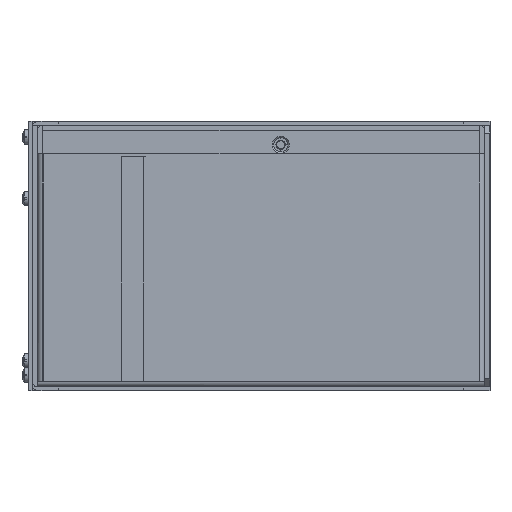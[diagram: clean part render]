
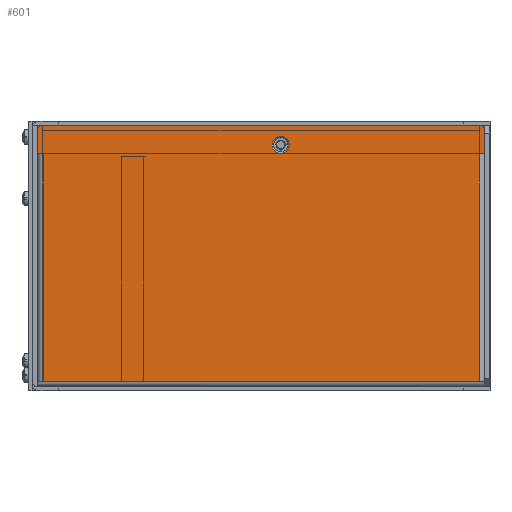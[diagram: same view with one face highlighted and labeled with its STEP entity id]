
A CAD part, left-side view. The second image highlights one B-rep face of the part: STEP entity #601.
In plain terms, the highlighted planar face has unit normal (-1, 0, 0).
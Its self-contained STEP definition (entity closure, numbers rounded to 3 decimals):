
#601=ADVANCED_FACE('',(#2149,#2150),#2151,.F.);
#2149=FACE_OUTER_BOUND('',#5106,.T.);
#2150=FACE_BOUND('',#5107,.T.);
#2151=PLANE('',#5108);
#5106=EDGE_LOOP('',(#8964,#8965,#8966,#8967,#8968,#8969,#8970,#8971,#8972,#8973,#8974,#8975));
#5107=EDGE_LOOP('',(#8976,#8977));
#5108=AXIS2_PLACEMENT_3D('',#8978,#8979,#8980);
#8964=ORIENTED_EDGE('',*,*,#19130,.T.);
#8965=ORIENTED_EDGE('',*,*,#19131,.F.);
#8966=ORIENTED_EDGE('',*,*,#19132,.F.);
#8967=ORIENTED_EDGE('',*,*,#19133,.F.);
#8968=ORIENTED_EDGE('',*,*,#19134,.F.);
#8969=ORIENTED_EDGE('',*,*,#19135,.F.);
#8970=ORIENTED_EDGE('',*,*,#19136,.F.);
#8971=ORIENTED_EDGE('',*,*,#19137,.F.);
#8972=ORIENTED_EDGE('',*,*,#19125,.T.);
#8973=ORIENTED_EDGE('',*,*,#19129,.F.);
#8974=ORIENTED_EDGE('',*,*,#19122,.F.);
#8975=ORIENTED_EDGE('',*,*,#19138,.F.);
#8976=ORIENTED_EDGE('',*,*,#19139,.T.);
#8977=ORIENTED_EDGE('',*,*,#18960,.T.);
#8978=CARTESIAN_POINT('',(-166.871,23.434,-48.));
#8979=DIRECTION('',(1.0,0.0,0.0));
#8980=DIRECTION('',(0.0,1.0,0.0));
#18960=EDGE_CURVE('',#22616,#22613,#22617,.T.);
#19122=EDGE_CURVE('',#22885,#22887,#22888,.T.);
#19125=EDGE_CURVE('',#22891,#22892,#22893,.T.);
#19129=EDGE_CURVE('',#22887,#22892,#22899,.T.);
#19130=EDGE_CURVE('',#22900,#22901,#22902,.T.);
#19131=EDGE_CURVE('',#22903,#22901,#22904,.T.);
#19132=EDGE_CURVE('',#22905,#22903,#22906,.T.);
#19133=EDGE_CURVE('',#22907,#22905,#22908,.T.);
#19134=EDGE_CURVE('',#22909,#22907,#22910,.T.);
#19135=EDGE_CURVE('',#22911,#22909,#22912,.T.);
#19136=EDGE_CURVE('',#22913,#22911,#22914,.T.);
#19137=EDGE_CURVE('',#22891,#22913,#22915,.T.);
#19138=EDGE_CURVE('',#22900,#22885,#22916,.T.);
#19139=EDGE_CURVE('',#22613,#22616,#22917,.T.);
#22613=VERTEX_POINT('',#28500);
#22616=VERTEX_POINT('',#28504);
#22617=CIRCLE('',#28505,3.25);
#22885=VERTEX_POINT('',#28908);
#22887=VERTEX_POINT('',#28911);
#22888=LINE('',#28912,#28913);
#22891=VERTEX_POINT('',#28923);
#22892=VERTEX_POINT('',#28924);
#22893=B_SPLINE_CURVE_WITH_KNOTS('',3,(#28925,#28926,#28927,#28928,#28929,#28930),.UNSPECIFIED.,.F.,.F.,(4,1,1,4),(0.0,0.333,0.667,1.0),.UNSPECIFIED.);
#22899=LINE('',#28937,#28938);
#22900=VERTEX_POINT('',#28939);
#22901=VERTEX_POINT('',#28940);
#22902=B_SPLINE_CURVE_WITH_KNOTS('',3,(#28941,#28942,#28943,#28944,#28945,#28946),.UNSPECIFIED.,.F.,.F.,(4,1,1,4),(0.0,0.333,0.667,1.0),.UNSPECIFIED.);
#22903=VERTEX_POINT('',#28947);
#22904=LINE('',#28948,#28949);
#22905=VERTEX_POINT('',#28950);
#22906=LINE('',#28951,#28952);
#22907=VERTEX_POINT('',#28953);
#22908=LINE('',#28954,#28955);
#22909=VERTEX_POINT('',#28956);
#22910=LINE('',#28957,#28958);
#22911=VERTEX_POINT('',#28959);
#22912=LINE('',#28960,#28961);
#22913=VERTEX_POINT('',#28962);
#22914=LINE('',#28963,#28964);
#22915=LINE('',#28965,#28966);
#22916=LINE('',#28967,#28968);
#22917=CIRCLE('',#28969,3.25);
#28500=CARTESIAN_POINT('',(-166.871,14.934,45.75));
#28504=CARTESIAN_POINT('',(-166.871,14.934,39.25));
#28505=AXIS2_PLACEMENT_3D('',#37409,#37410,#37411);
#28908=CARTESIAN_POINT('',(-166.871,-60.966,-47.9));
#28911=CARTESIAN_POINT('',(-166.871,105.734,-47.9));
#28912=CARTESIAN_POINT('',(-166.871,-60.966,-47.9));
#28913=VECTOR('',#37680,166.7);
#28923=CARTESIAN_POINT('',(-166.87,105.834,39.));
#28924=CARTESIAN_POINT('',(-166.871,105.734,39.));
#28925=CARTESIAN_POINT('',(-166.87,105.834,39.));
#28926=CARTESIAN_POINT('',(-166.87,105.823,39.));
#28927=CARTESIAN_POINT('',(-166.871,105.801,39.));
#28928=CARTESIAN_POINT('',(-166.871,105.768,39.));
#28929=CARTESIAN_POINT('',(-166.871,105.745,39.));
#28930=CARTESIAN_POINT('',(-166.871,105.734,39.));
#28937=CARTESIAN_POINT('',(-166.871,105.734,-47.9));
#28938=VECTOR('',#37689,86.9);
#28939=CARTESIAN_POINT('',(-166.871,-60.966,39.));
#28940=CARTESIAN_POINT('',(-166.87,-61.066,39.));
#28941=CARTESIAN_POINT('',(-166.871,-60.966,39.));
#28942=CARTESIAN_POINT('',(-166.871,-60.977,39.));
#28943=CARTESIAN_POINT('',(-166.871,-60.999,39.));
#28944=CARTESIAN_POINT('',(-166.871,-61.032,39.));
#28945=CARTESIAN_POINT('',(-166.87,-61.055,39.));
#28946=CARTESIAN_POINT('',(-166.87,-61.066,39.));
#28947=CARTESIAN_POINT('',(-166.871,-61.066,39.2));
#28948=CARTESIAN_POINT('',(-166.871,-61.066,39.2));
#28949=VECTOR('',#37690,0.2);
#28950=CARTESIAN_POINT('',(-166.871,-63.066,39.2));
#28951=CARTESIAN_POINT('',(-166.871,-63.066,39.2));
#28952=VECTOR('',#37691,2.0);
#28953=CARTESIAN_POINT('',(-166.871,-63.066,50.));
#28954=CARTESIAN_POINT('',(-166.871,-63.066,50.));
#28955=VECTOR('',#37692,10.8);
#28956=CARTESIAN_POINT('',(-166.871,107.834,50.));
#28957=CARTESIAN_POINT('',(-166.871,107.834,50.));
#28958=VECTOR('',#37693,170.9);
#28959=CARTESIAN_POINT('',(-166.871,107.834,39.2));
#28960=CARTESIAN_POINT('',(-166.871,107.834,39.2));
#28961=VECTOR('',#37694,10.8);
#28962=CARTESIAN_POINT('',(-166.871,105.834,39.2));
#28963=CARTESIAN_POINT('',(-166.871,105.834,39.2));
#28964=VECTOR('',#37695,2.0);
#28965=CARTESIAN_POINT('',(-166.87,105.834,39.));
#28966=VECTOR('',#37696,0.2);
#28967=CARTESIAN_POINT('',(-166.871,-60.966,39.));
#28968=VECTOR('',#37697,86.9);
#28969=AXIS2_PLACEMENT_3D('',#37698,#37699,#37700);
#37409=CARTESIAN_POINT('',(-166.871,14.934,42.5));
#37410=DIRECTION('',(1.0,0.0,-0.0));
#37411=DIRECTION('',(0.0,0.0,1.0));
#37680=DIRECTION('',(0.0,1.0,0.0));
#37689=DIRECTION('',(0.0,0.0,1.0));
#37690=DIRECTION('',(0.006,0.,-1.));
#37691=DIRECTION('',(0.,1.0,0.0));
#37692=DIRECTION('',(0.0,0.0,-1.0));
#37693=DIRECTION('',(0.0,-1.0,0.0));
#37694=DIRECTION('',(0.0,0.0,1.0));
#37695=DIRECTION('',(0.0,1.0,0.));
#37696=DIRECTION('',(-0.006,0.,1.));
#37697=DIRECTION('',(0.0,0.0,-1.0));
#37698=CARTESIAN_POINT('',(-166.871,14.934,42.5));
#37699=DIRECTION('',(1.0,0.0,-0.0));
#37700=DIRECTION('',(0.0,0.0,1.0));
